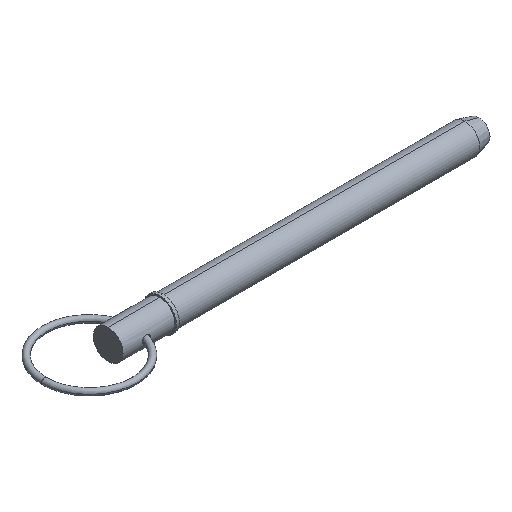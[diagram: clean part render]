
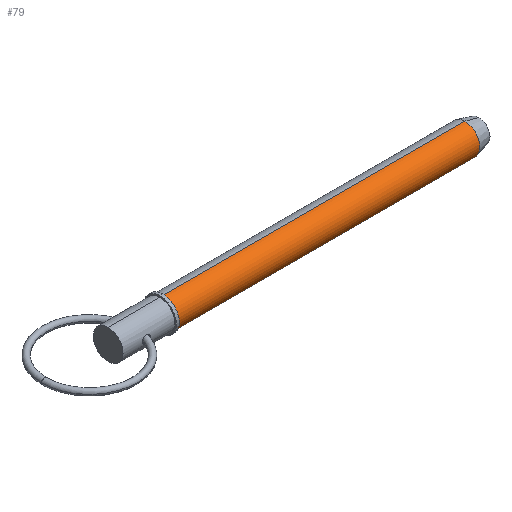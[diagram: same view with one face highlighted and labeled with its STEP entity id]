
A CAD part, isometric view. The second image highlights one B-rep face of the part: STEP entity #79.
In plain terms, the highlighted cylindrical face has radius 9.525 mm (diameter 19.05 mm), a partial arc.
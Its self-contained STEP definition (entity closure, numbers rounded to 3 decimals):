
#4 = DIRECTION ( 'NONE',  ( 0., 0., -1. ) ) ;
#41 = DIRECTION ( 'NONE',  ( 1., 0., 0. ) ) ;
#45 = EDGE_CURVE ( 'NONE', #912, #962, #741, .T. ) ;
#79 = ADVANCED_FACE ( 'NONE', ( #146 ), #156, .T. ) ;
#108 = EDGE_CURVE ( 'NONE', #912, #1037, #163, .T. ) ;
#126 = LINE ( 'NONE', #272, #179 ) ;
#134 = ORIENTED_EDGE ( 'NONE', *, *, #45, .T. ) ;
#146 = FACE_OUTER_BOUND ( 'NONE', #1025, .T. ) ;
#156 = CYLINDRICAL_SURFACE ( 'NONE', #793, 9.525 ) ;
#163 = LINE ( 'NONE', #488, #1027 ) ;
#178 = EDGE_CURVE ( 'NONE', #1037, #932, #462, .T. ) ;
#179 = VECTOR ( 'NONE', #41, 1000. ) ;
#272 = CARTESIAN_POINT ( 'NONE',  ( 0., 0., -9.525 ) ) ;
#273 = AXIS2_PLACEMENT_3D ( 'NONE', #714, #980, #4 ) ;
#319 = CARTESIAN_POINT ( 'NONE',  ( 0., 0., 0. ) ) ;
#396 = DIRECTION ( 'NONE',  ( 1., 0., 0. ) ) ;
#446 = ORIENTED_EDGE ( 'NONE', *, *, #178, .F. ) ;
#462 = CIRCLE ( 'NONE', #813, 9.525 ) ;
#488 = CARTESIAN_POINT ( 'NONE',  ( 0., 0., 9.525 ) ) ;
#534 = CARTESIAN_POINT ( 'NONE',  ( 34.93, 0., 9.525 ) ) ;
#594 = EDGE_CURVE ( 'NONE', #962, #932, #126, .T. ) ;
#609 = CARTESIAN_POINT ( 'NONE',  ( 227.643, 0., -9.525 ) ) ;
#650 = DIRECTION ( 'NONE',  ( 1., 0., 0. ) ) ;
#710 = DIRECTION ( 'NONE',  ( 0., 0., -1. ) ) ;
#712 = CARTESIAN_POINT ( 'NONE',  ( 34.93, 0., -9.525 ) ) ;
#714 = CARTESIAN_POINT ( 'NONE',  ( 34.93, 0., 0. ) ) ;
#741 = CIRCLE ( 'NONE', #273, 9.525 ) ;
#775 = CARTESIAN_POINT ( 'NONE',  ( 227.643, 0., 9.525 ) ) ;
#793 = AXIS2_PLACEMENT_3D ( 'NONE', #319, #650, #1060 ) ;
#800 = DIRECTION ( 'NONE',  ( 1., 0., 0. ) ) ;
#811 = CARTESIAN_POINT ( 'NONE',  ( 227.643, 0., 0. ) ) ;
#813 = AXIS2_PLACEMENT_3D ( 'NONE', #811, #396, #710 ) ;
#912 = VERTEX_POINT ( 'NONE', #534 ) ;
#927 = ORIENTED_EDGE ( 'NONE', *, *, #594, .T. ) ;
#932 = VERTEX_POINT ( 'NONE', #609 ) ;
#962 = VERTEX_POINT ( 'NONE', #712 ) ;
#980 = DIRECTION ( 'NONE',  ( 1., 0., 0. ) ) ;
#998 = ORIENTED_EDGE ( 'NONE', *, *, #108, .F. ) ;
#1025 = EDGE_LOOP ( 'NONE', ( #998, #134, #927, #446 ) ) ;
#1027 = VECTOR ( 'NONE', #800, 1000. ) ;
#1037 = VERTEX_POINT ( 'NONE', #775 ) ;
#1060 = DIRECTION ( 'NONE',  ( 0., 0., -1. ) ) ;
